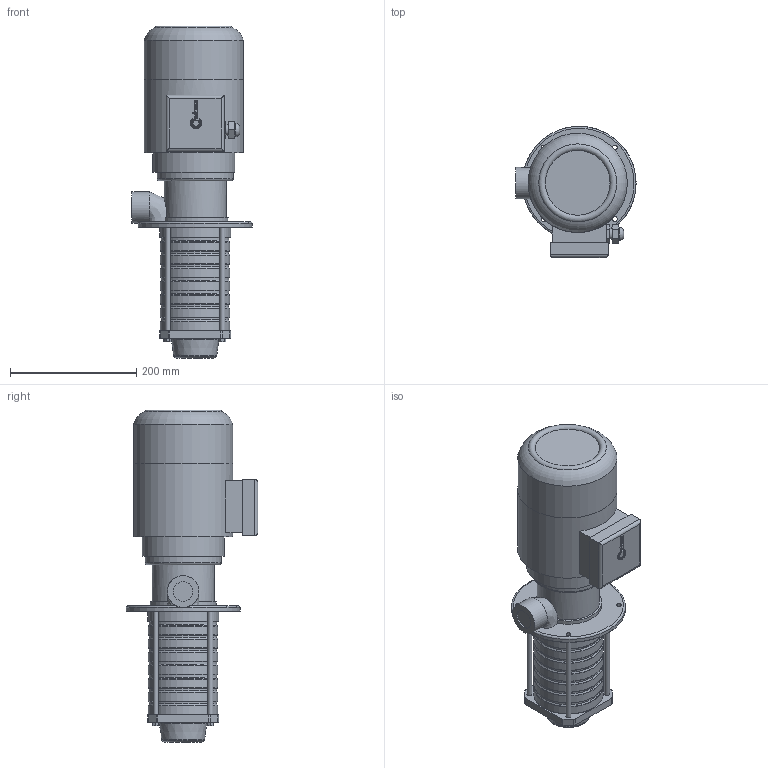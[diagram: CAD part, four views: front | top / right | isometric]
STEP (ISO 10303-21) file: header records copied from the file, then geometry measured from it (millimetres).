
FILE_DESCRIPTION(/* description */ ('Unknown'),/* implementation_level */ '2;1');
FILE_NAME(/* name */ 'hdb06',/* time_stamp */ '2025-06-17T14:59:00+03:00',/* author */ ('Unknown'),/* organization */ ('Unknown'),/* preprocessor_version */ 'ST-DEVELOPER v16.7',/* originating_system */ 'DEX',/* authorisation */ $);
FILE_SCHEMA (('AUTOMOTIVE_DESIGN {1 0 10303 214 3 1 1}'));
Length unit declared in the file: millimetre
Products named in the file (1): hdb06
Bounding box: 190 x 208 x 525.04 mm (x, y, z)
Volume: 7341582.2 mm3; surface area: 334254.2 mm2
Topology: 1 solids, 1 shells, 256 faces, 624 edges, 405 vertices
Faces by surface type: plane 103, bspline 66, cylinder 54, torus 22, cone 11
Full cylindrical faces by diameter (mm): 7.5 x4, 8 x4, 17 x1, 21.5 x1, 31 x1, 50 x1, 98.181 x1, 106.9 x7, 110 x7, 112 x1, 120 x1, 129.64 x1, 156.993 x1, 157 x1, 180 x1
Entity records: 9719 total; most frequent: CARTESIAN_POINT 4331, ORIENTED_EDGE 1092, DIRECTION 922, EDGE_CURVE 546, VERTEX_POINT 393, EDGE_LOOP 373, FACE_BOUND 373, AXIS2_PLACEMENT_3D 325
